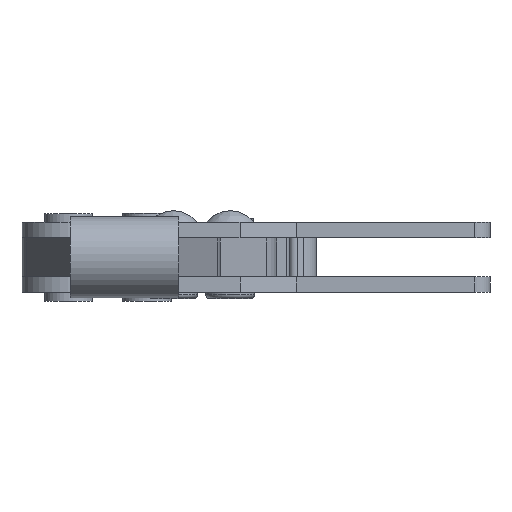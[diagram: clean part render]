
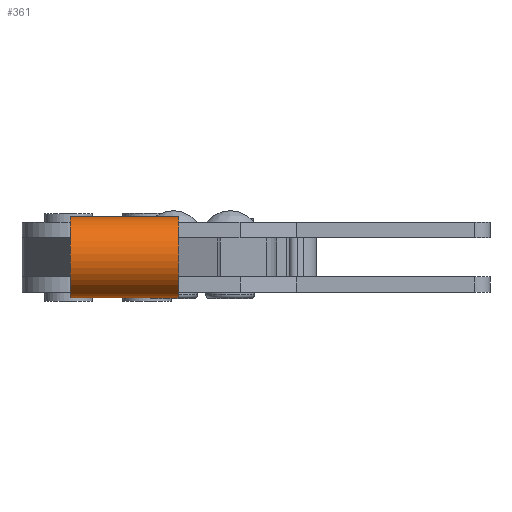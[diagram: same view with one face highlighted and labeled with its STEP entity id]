
A CAD part, left-side view. The second image highlights one B-rep face of the part: STEP entity #361.
In plain terms, the highlighted cylindrical face has radius 10.44 mm (diameter 20.88 mm), a partial arc.
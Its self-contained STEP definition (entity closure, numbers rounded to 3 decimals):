
#361 = ADVANCED_FACE( '', ( #680 ), #681, .T. );
#680 = FACE_OUTER_BOUND( '', #1224, .T. );
#681 = CYLINDRICAL_SURFACE( '', #1225, 10.44 );
#1224 = EDGE_LOOP( '', ( #2193, #2194, #2195, #2196 ) );
#1225 = AXIS2_PLACEMENT_3D( '', #2197, #2198, #2199 );
#2193 = ORIENTED_EDGE( '', *, *, #3406, .T. );
#2194 = ORIENTED_EDGE( '', *, *, #3407, .F. );
#2195 = ORIENTED_EDGE( '', *, *, #3408, .F. );
#2196 = ORIENTED_EDGE( '', *, *, #3373, .T. );
#2197 = CARTESIAN_POINT( '', ( -132.75, 26.57, 0. ) );
#2198 = DIRECTION( '', ( 0., 1., 0. ) );
#2199 = DIRECTION( '', ( 0., 0., -1. ) );
#3373 = EDGE_CURVE( '', #4018, #4016, #4019, .T. );
#3406 = EDGE_CURVE( '', #4016, #4076, #4077, .T. );
#3407 = EDGE_CURVE( '', #4078, #4076, #4079, .T. );
#3408 = EDGE_CURVE( '', #4018, #4078, #4080, .T. );
#4016 = VERTEX_POINT( '', #5000 );
#4018 = VERTEX_POINT( '', #5003 );
#4019 = LINE( '', #5004, #5005 );
#4076 = VERTEX_POINT( '', #5081 );
#4077 = CIRCLE( '', #5082, 10.44 );
#4078 = VERTEX_POINT( '', #5083 );
#4079 = LINE( '', #5084, #5085 );
#4080 = CIRCLE( '', #5086, 10.44 );
#5000 = CARTESIAN_POINT( '', ( -127.319, -1.33, -8.916 ) );
#5003 = CARTESIAN_POINT( '', ( -127.319, 26.57, -8.916 ) );
#5004 = CARTESIAN_POINT( '', ( -127.319, 26.57, -8.916 ) );
#5005 = VECTOR( '', #6316, 1000. );
#5081 = CARTESIAN_POINT( '', ( -127.319, -1.33, 8.916 ) );
#5082 = AXIS2_PLACEMENT_3D( '', #6375, #6376, #6377 );
#5083 = CARTESIAN_POINT( '', ( -127.319, 26.57, 8.916 ) );
#5084 = CARTESIAN_POINT( '', ( -127.319, 26.57, 8.916 ) );
#5085 = VECTOR( '', #6378, 1000. );
#5086 = AXIS2_PLACEMENT_3D( '', #6379, #6380, #6381 );
#6316 = DIRECTION( '', ( 0., -1., 0. ) );
#6375 = CARTESIAN_POINT( '', ( -132.75, -1.33, 0. ) );
#6376 = DIRECTION( '', ( 0., 1., 0. ) );
#6377 = DIRECTION( '', ( 1., 0., 0. ) );
#6378 = DIRECTION( '', ( 0., -1., 0. ) );
#6379 = CARTESIAN_POINT( '', ( -132.75, 26.57, 0. ) );
#6380 = DIRECTION( '', ( 0., 1., 0. ) );
#6381 = DIRECTION( '', ( 1., 0., 0. ) );
